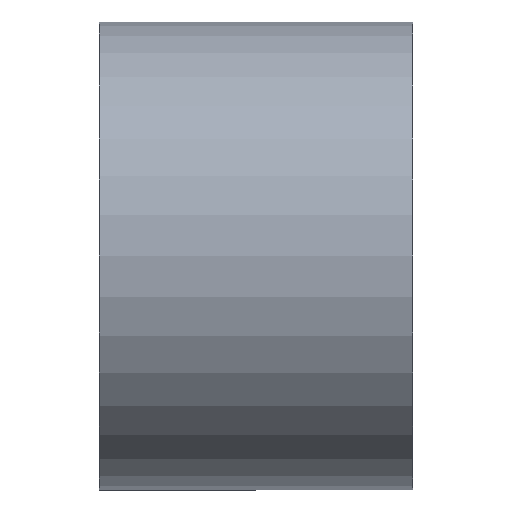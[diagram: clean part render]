
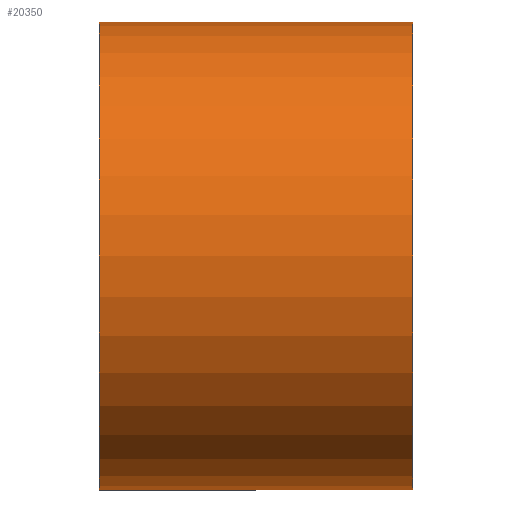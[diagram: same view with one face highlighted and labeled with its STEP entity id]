
A CAD part, left-side view. The second image highlights one B-rep face of the part: STEP entity #20350.
In plain terms, the highlighted cylindrical face has radius 74.644 mm (diameter 149.288 mm), a partial arc.
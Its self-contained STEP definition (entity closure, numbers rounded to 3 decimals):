
#237 = ORIENTED_EDGE ( 'NONE', *, *, #20324, .T. ) ;
#3444 = CYLINDRICAL_SURFACE ( 'NONE', #38657, 74.644 ) ;
#5958 = DIRECTION ( 'NONE',  ( 0., 0., 1. ) ) ;
#6921 = LINE ( 'NONE', #33281, #15588 ) ;
#7970 = CARTESIAN_POINT ( 'NONE',  ( 0., 90.242, 0. ) ) ;
#8011 = AXIS2_PLACEMENT_3D ( 'NONE', #7970, #42258, #23100 ) ;
#8368 = CARTESIAN_POINT ( 'NONE',  ( 0., 90.242, -74.644 ) ) ;
#9267 = CARTESIAN_POINT ( 'NONE',  ( 0., 65.5, 74.644 ) ) ;
#10662 = CARTESIAN_POINT ( 'NONE',  ( 0., -9.758, 0. ) ) ;
#15588 = VECTOR ( 'NONE', #41694, 1000. ) ;
#18590 = CARTESIAN_POINT ( 'NONE',  ( 0., 65.5, 0. ) ) ;
#19183 = EDGE_CURVE ( 'NONE', #19551, #28362, #6921, .T. ) ;
#19551 = VERTEX_POINT ( 'NONE', #44631 ) ;
#19771 = VERTEX_POINT ( 'NONE', #33037 ) ;
#20324 = EDGE_CURVE ( 'NONE', #19771, #25613, #43329, .T. ) ;
#20350 = ADVANCED_FACE ( 'NONE', ( #41717 ), #3444, .T. ) ;
#22548 = DIRECTION ( 'NONE',  ( 0., 1., 0. ) ) ;
#23061 = CIRCLE ( 'NONE', #8011, 74.644 ) ;
#23100 = DIRECTION ( 'NONE',  ( 0., 0., 1. ) ) ;
#25290 = ORIENTED_EDGE ( 'NONE', *, *, #37257, .T. ) ;
#25613 = VERTEX_POINT ( 'NONE', #46987 ) ;
#26533 = ORIENTED_EDGE ( 'NONE', *, *, #19183, .F. ) ;
#28362 = VERTEX_POINT ( 'NONE', #8368 ) ;
#33037 = CARTESIAN_POINT ( 'NONE',  ( 0., -9.758, 74.644 ) ) ;
#33281 = CARTESIAN_POINT ( 'NONE',  ( 0., 65.5, -74.644 ) ) ;
#33535 = DIRECTION ( 'NONE',  ( 0., 1., 0. ) ) ;
#33771 = DIRECTION ( 'NONE',  ( 0., 0., 1. ) ) ;
#35747 = ORIENTED_EDGE ( 'NONE', *, *, #36171, .F. ) ;
#36171 = EDGE_CURVE ( 'NONE', #28362, #25613, #23061, .T. ) ;
#36276 = VECTOR ( 'NONE', #22548, 1000. ) ;
#37257 = EDGE_CURVE ( 'NONE', #19551, #19771, #37392, .T. ) ;
#37392 = CIRCLE ( 'NONE', #42974, 74.644 ) ;
#38657 = AXIS2_PLACEMENT_3D ( 'NONE', #18590, #40081, #33771 ) ;
#40081 = DIRECTION ( 'NONE',  ( 0., 1., 0. ) ) ;
#41694 = DIRECTION ( 'NONE',  ( 0., 1., 0. ) ) ;
#41717 = FACE_OUTER_BOUND ( 'NONE', #47799, .T. ) ;
#42258 = DIRECTION ( 'NONE',  ( 0., 1., 0. ) ) ;
#42974 = AXIS2_PLACEMENT_3D ( 'NONE', #10662, #33535, #5958 ) ;
#43329 = LINE ( 'NONE', #9267, #36276 ) ;
#44631 = CARTESIAN_POINT ( 'NONE',  ( 0., -9.758, -74.644 ) ) ;
#46987 = CARTESIAN_POINT ( 'NONE',  ( 0., 90.242, 74.644 ) ) ;
#47799 = EDGE_LOOP ( 'NONE', ( #26533, #25290, #237, #35747 ) ) ;
